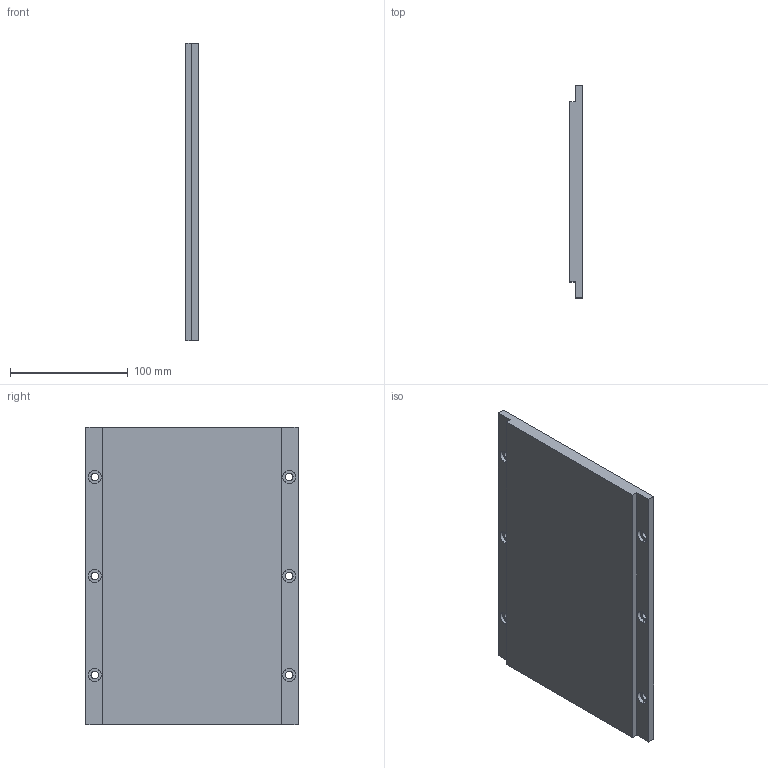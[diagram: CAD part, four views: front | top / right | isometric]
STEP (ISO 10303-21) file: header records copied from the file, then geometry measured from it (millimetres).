
FILE_DESCRIPTION (( 'STEP AP214' ), '1' );
FILE_NAME ('WKM150-252.STEP', '2025-09-05T12:10:28', ( '' ), ( '' ), 'SwSTEP 2.0', 'SolidWorks 2016', '' );
FILE_SCHEMA (( 'AUTOMOTIVE_DESIGN' ));
Length unit declared in the file: millimetre
Products named in the file (1): WKM150-252
Bounding box: 10.8 x 180 x 252 mm (x, y, z)
Volume: 454092.4 mm3; surface area: 100383.2 mm2
Topology: 1 solids, 1 shells, 40 faces, 96 edges, 64 vertices
Faces by surface type: cylinder 24, plane 16
Entity records: 1246 total; most frequent: DIRECTION 226, CARTESIAN_POINT 201, ORIENTED_EDGE 192, EDGE_CURVE 96, AXIS2_PLACEMENT_3D 89, VERTEX_POINT 64, EDGE_LOOP 58, LINE 48
